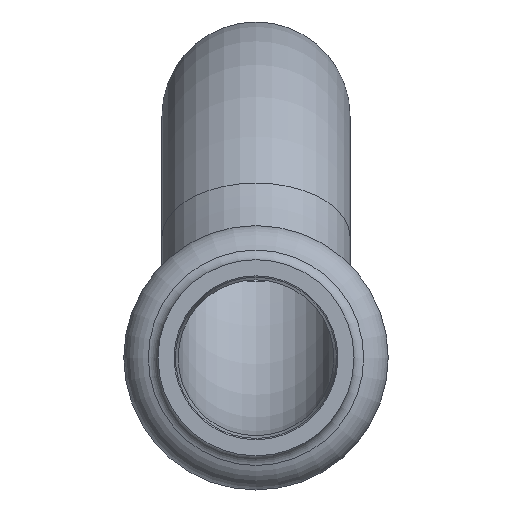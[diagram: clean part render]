
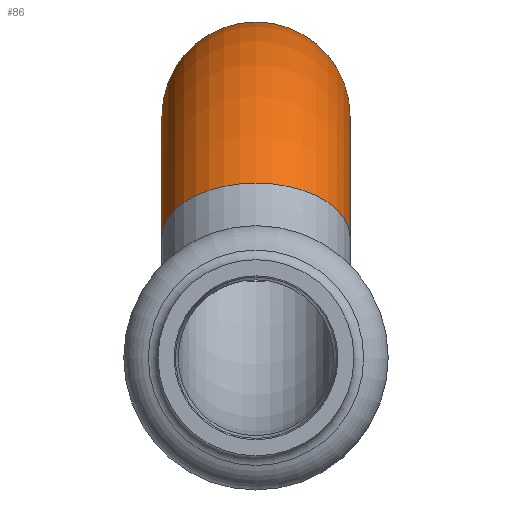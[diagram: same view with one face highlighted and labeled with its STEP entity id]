
A CAD part, front view. The second image highlights one B-rep face of the part: STEP entity #86.
In plain terms, the highlighted toroidal (fillet/blend) face has major radius 21 mm and minor radius 7 mm.
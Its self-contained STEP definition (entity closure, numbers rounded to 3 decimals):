
#86=ADVANCED_FACE('',(#308,#310),#312,.T.);
#308=FACE_OUTER_BOUND('',#309,.T.);
#309=EDGE_LOOP('',(#495));
#310=FACE_OUTER_BOUND('',#311,.T.);
#311=EDGE_LOOP('',(#496));
#312=TOROIDAL_SURFACE('',#313,21.,7.);
#313=AXIS2_PLACEMENT_3D('',#314,#315,#316);
#314=CARTESIAN_POINT('',(0.,63.75,-3.));
#315=DIRECTION('',(-1.,0.,0.));
#316=DIRECTION('',(0.,-0.821,0.571));
#495=ORIENTED_EDGE('',*,*,#554,.F.);
#496=ORIENTED_EDGE('',*,*,#552,.T.);
#552=EDGE_CURVE('',#622,#622,#623,.T.);
#554=EDGE_CURVE('',#626,#626,#627,.T.);
#622=VERTEX_POINT('',#789);
#623=CIRCLE('',#790,7.);
#626=VERTEX_POINT('',#799);
#627=CIRCLE('',#800,7.);
#789=CARTESIAN_POINT('',(-7.,46.516,9.));
#790=AXIS2_PLACEMENT_3D('',#791,#792,#793);
#791=CARTESIAN_POINT('',(0.,46.516,9.));
#792=DIRECTION('',(0.,0.571,0.821));
#793=DIRECTION('',(-1.,0.,0.));
#799=CARTESIAN_POINT('',(-7.,80.984,9.));
#800=AXIS2_PLACEMENT_3D('',#801,#802,#803);
#801=CARTESIAN_POINT('',(0.,80.984,9.));
#802=DIRECTION('',(0.,0.571,-0.821));
#803=DIRECTION('',(-1.,0.,0.));
